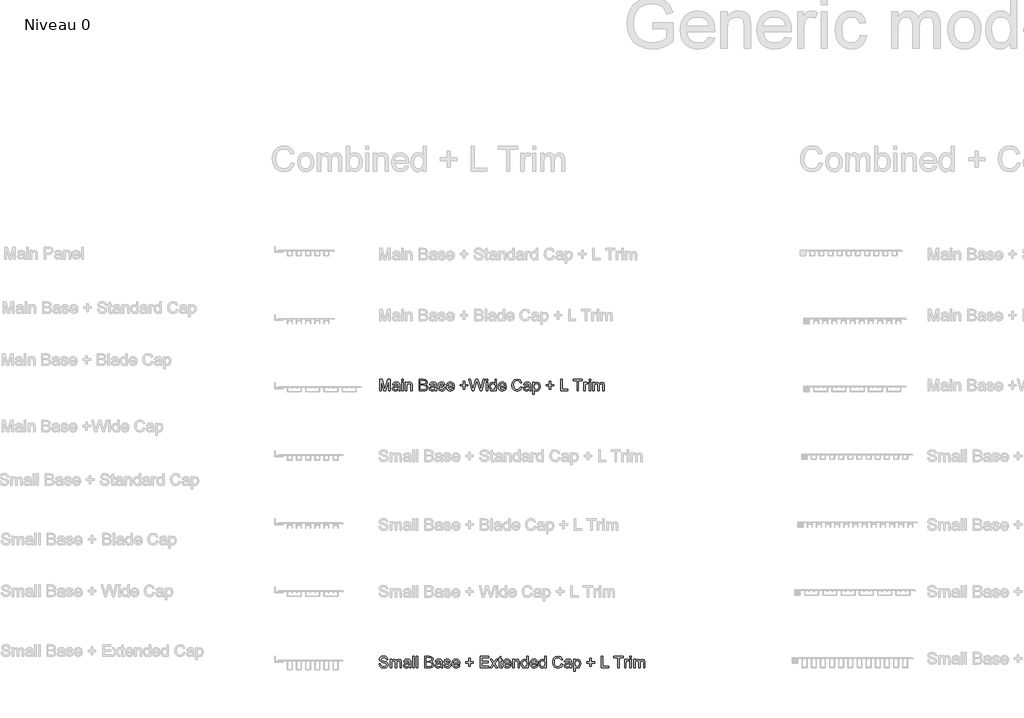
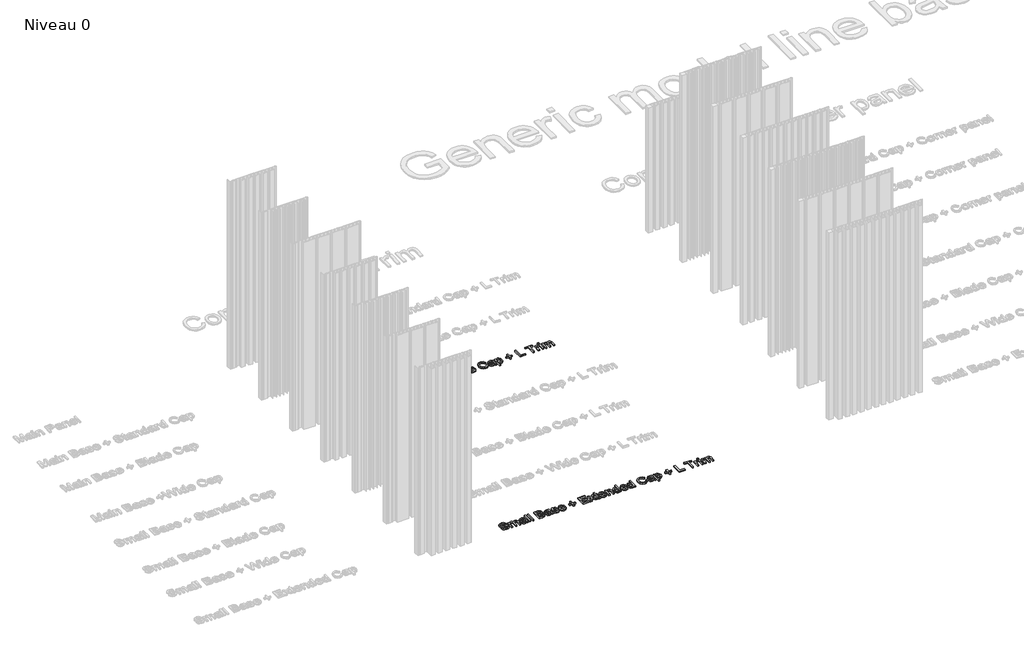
# One storey, part 10 of 25: 2 proxies.
"""IFC4 building model written with IfcOpenShell, lengths in millimetres."""

from ifc_helpers import new_model, si_unit, origin, origin_with_axes, place, context, project, spatial, polyline, outline, extrude, element, save

model = new_model("IFC4")

# Units and contexts
model_context = context("Model", 3, world=origin())
ifc_project = project(units=[si_unit("LENGTHUNIT", "METRE", prefix="MILLI")], contexts=[model_context])

# Site, building, storey
site = spatial("IfcSite", under=ifc_project)
building = spatial("IfcBuilding", under=site)
storey = spatial("IfcBuildingStorey", under=building, Name="Niveau 0", Elevation=0.0)

# Proxies
placement = place(None, origin())
element("IfcBuildingElementProxy", 1, Name="70mm Arial", ObjectType="70mm Arial", at=placement, inside=storey, context=model_context, shape_type="SweptSolid", body=[
    extrude(outline(polyline([(586.1765083, 3725.5948416), (586.1765083, 3795.9142587), (601.3013634, 3795.9142587), (615.688002, 3746.3507438), (618.5893646, 3735.9985444), (621.7310769, 3747.2091351), (635.8773659, 3795.9142587), (651.0022209, 3795.9142587), (651.0022209, 3725.5948416), (642.2122938, 3725.5948416), (642.2122938, 3787.1243316), (624.5466004, 3725.5948416), (612.6321289, 3725.5948416), (594.9664354, 3787.1243316), (594.9664354, 3725.5948416), (586.1765083, 3725.5948416)])), origin_with_axes(), (0.0, 0.0, 1.0), 10.0),
    extrude(outline(polyline([(698.2480793, 3732.187287), (689.7242535, 3726.2300512), (680.3077007, 3724.4961007), (667.5434217, 3728.6678825), (663.0883708, 3739.3291028), (664.7708178, 3746.2820725), (669.1915331, 3751.3294134), (675.3461988, 3754.2136083), (682.951546, 3755.5355309), (698.1965758, 3758.5570684), (698.2480793, 3760.5142006), (695.8274158, 3767.003639), (686.110426, 3769.5444773), (677.2174919, 3767.8534464), (672.9770388, 3761.8532911), (664.1871117, 3762.9520319), (667.9897852, 3771.5359452), (675.6466358, 3776.5661183), (687.2435026, 3778.3344044), (697.8961389, 3776.7721322), (703.913462, 3772.8492839), (706.6088108, 3766.8834642), (707.0380065, 3759.192278), (707.0380065, 3748.2563725), (707.4843699, 3732.9855909), (709.2354882, 3725.5948416), (700.4455611, 3725.5948416), (698.2480793, 3732.187287)]), holes=[polyline([(698.2480793, 3749.7671412), (684.0674547, 3747.0717925), (676.5050271, 3745.6468629), (673.0800458, 3743.3292063), (671.8782979, 3739.9471445), (674.4963914, 3735.1916566), (682.1789938, 3733.2860279), (691.0719279, 3735.3890866), (696.8059819, 3740.4793471), (698.1965758, 3747.2778064), (698.2480793, 3749.7671412)])]), origin_with_axes(), (0.0, 0.0, 1.0), 10.0),
    extrude(outline(polyline([(719.1241563, 3725.5948416), (719.1241563, 3777.2356635), (727.9140834, 3777.2356635), (727.9140834, 3725.5948416), (719.1241563, 3725.5948416)])), origin_with_axes(), (0.0, 0.0, 1.0), 10.0),
    extrude(outline(polyline([(719.1241563, 3787.1243316), (719.1241563, 3795.9142587), (727.9140834, 3795.9142587), (727.9140834, 3787.1243316), (719.1241563, 3787.1243316)])), origin_with_axes(), (0.0, 0.0, 1.0), 10.0),
    extrude(outline(polyline([(741.0989741, 3725.5948416), (741.0989741, 3777.2356635), (749.8889013, 3777.2356635), (749.8889013, 3770.0251764), (756.6101053, 3776.2570974), (765.7863085, 3778.3344044), (774.0869526, 3776.6605414), (779.7523353, 3772.2655778), (782.3875967, 3765.8018911), (782.851128, 3757.303817), (782.851128, 3725.5948416), (774.0612009, 3725.5948416), (774.0612009, 3756.119237), (773.0482991, 3763.8962624), (769.4688073, 3768.0079568), (763.4343163, 3769.5444773), (753.8975887, 3766.0937442), (749.8889013, 3752.9946926), (749.8889013, 3725.5948416), (741.0989741, 3725.5948416)])), origin_with_axes(), (0.0, 0.0, 1.0), 10.0),
    extrude(outline(polyline([(823.504541, 3725.5948416), (823.504541, 3795.9142587), (850.3378538, 3795.9142587), (863.4798249, 3793.8455356), (871.2396825, 3787.4848559), (874.0466221, 3778.4889149), (871.6860459, 3770.2741099), (864.5528141, 3764.0507728), (873.2139825, 3757.4926631), (876.2441039, 3746.5567577), (874.1753808, 3737.1058692), (869.0507846, 3730.3760813), (861.4025179, 3726.8051734), (850.1318398, 3725.5948416), (823.504541, 3725.5948416)]), holes=[polyline([(832.2944682, 3767.3469955), (848.3463859, 3767.3469955), (857.7200191, 3768.1023799), (863.3596501, 3771.355683), (865.2566949, 3777.0811531), (863.4884088, 3782.8152071), (858.4239, 3786.2058529), (847.1274702, 3787.1243316), (832.2944682, 3787.1243316), (832.2944682, 3767.3469955)]), polyline([(832.2944682, 3734.3847687), (850.3206859, 3734.3847687), (856.84446, 3734.7281253), (862.3639162, 3736.6423379), (866.0206632, 3740.5480184), (867.4541767, 3746.4709186), (865.7717297, 3753.3037135), (860.3209448, 3757.3810723), (849.4622946, 3758.5570684), (832.2944682, 3758.5570684), (832.2944682, 3734.3847687)])]), origin_with_axes(), (0.0, 0.0, 1.0), 10.0),
    extrude(outline(polyline([(920.1937396, 3732.187287), (911.6699137, 3726.2300512), (902.2533609, 3724.4961007), (889.489082, 3728.6678825), (885.034031, 3739.3291028), (886.716478, 3746.2820725), (891.1371933, 3751.3294134), (897.2918591, 3754.2136083), (904.8972062, 3755.5355309), (920.1422361, 3758.5570684), (920.1937396, 3760.5142006), (917.773076, 3767.003639), (908.0560863, 3769.5444773), (899.1631522, 3767.8534464), (894.922699, 3761.8532911), (886.1327719, 3762.9520319), (889.9354454, 3771.5359452), (897.592296, 3776.5661183), (909.1891628, 3778.3344044), (919.8417991, 3776.7721322), (925.8591223, 3772.8492839), (928.554471, 3766.8834642), (928.9836667, 3759.192278), (928.9836667, 3748.2563725), (929.4300302, 3732.9855909), (931.1811485, 3725.5948416), (922.3912213, 3725.5948416), (920.1937396, 3732.187287)]), holes=[polyline([(920.1937396, 3749.7671412), (906.0131149, 3747.0717925), (898.4506874, 3745.6468629), (895.025706, 3743.3292063), (893.8239581, 3739.9471445), (896.4420517, 3735.1916566), (904.124654, 3733.2860279), (913.0175881, 3735.3890866), (918.7516421, 3740.4793471), (920.1422361, 3747.2778064), (920.1937396, 3749.7671412)])]), origin_with_axes(), (0.0, 0.0, 1.0), 10.0),
    extrude(outline(polyline([(937.7735938, 3740.9772141), (946.563521, 3742.075955), (950.6322958, 3735.5521809), (959.9544256, 3733.2860279), (968.916031, 3735.3633349), (971.8345615, 3740.2389976), (968.8988632, 3744.1875976), (959.8514186, 3746.6941003), (946.6150244, 3750.9946408), (940.8380508, 3756.0162301), (938.8723347, 3763.1065424), (940.4517748, 3769.6560682), (944.7608992, 3774.6604896), (950.3490267, 3777.2614153), (957.9114542, 3778.3344044), (968.6070101, 3776.6090379), (975.4054694, 3771.9393891), (978.4270068, 3764.0507728), (969.6370797, 3762.9520319), (966.3322731, 3767.8019429), (958.5981673, 3769.5444773), (950.1859323, 3767.8791981), (947.6622619, 3763.9992694), (948.7094993, 3761.4412632), (951.9885541, 3759.5012988), (959.5595656, 3757.6300058), (972.4611872, 3753.4925596), (978.4527586, 3748.805743), (980.6244886, 3741.1660602), (978.0750664, 3732.7538252), (970.7186528, 3726.6506629), (959.8342508, 3724.4961007), (944.5033818, 3728.6507147), (937.7735938, 3740.9772141)])), origin_with_axes(), (0.0, 0.0, 1.0), 10.0),
    extrude(outline(polyline([(1026.6685991, 3740.9772141), (1035.286848, 3739.8784732), (1027.2265535, 3728.5305399), (1012.2132893, 3724.4961007), (1001.8997175, 3726.2364891), (993.9638898, 3731.4576543), (988.9036729, 3739.8205318), (987.216934, 3750.9860569), (988.9208408, 3762.5271282), (994.0325611, 3771.158253), (1001.8610899, 3776.5403666), (1011.7154223, 3778.3344044), (1021.2628798, 3776.5446585), (1028.8918327, 3771.1754208), (1033.8941081, 3762.5614639), (1035.5615332, 3751.0375604), (1035.5100298, 3748.6684003), (996.0068611, 3748.6684003), (1001.062786, 3737.2517958), (1012.3849675, 3733.2860279), (1021.0032164, 3735.1229853), (1026.6685991, 3740.9772141)]), holes=[polyline([(996.0068611, 3757.4583275), (1026.7716061, 3757.4583275), (1023.2522017, 3765.424199), (1011.6810867, 3769.5444773), (1000.8567721, 3766.2568385), (996.0068611, 3757.4583275)])]), origin_with_axes(), (0.0, 0.0, 1.0), 10.0),
    extrude(outline(polyline([(1089.399837, 3736.5822505), (1089.399837, 3755.2608457), (1070.7212418, 3755.2608457), (1070.7212418, 3764.0507728), (1089.399837, 3764.0507728), (1089.399837, 3782.729368), (1098.1897641, 3782.729368), (1098.1897641, 3764.0507728), (1116.8683593, 3764.0507728), (1116.8683593, 3755.2608457), (1098.1897641, 3755.2608457), (1098.1897641, 3736.5822505), (1089.399837, 3736.5822505)])), origin_with_axes(), (0.0, 0.0, 1.0), 10.0),
    extrude(outline(polyline([(1142.6372668, 3725.5948416), (1123.4608046, 3795.9142587), (1132.525417, 3795.9142587), (1143.6501685, 3749.6984699), (1147.0837338, 3735.4320062), (1150.7576487, 3748.0503586), (1164.6979237, 3795.9142587), (1177.7626397, 3795.9142587), (1187.8916573, 3761.2180815), (1195.4283331, 3735.4320062), (1198.7588914, 3749.2864421), (1209.9866499, 3795.9142587), (1219.0512622, 3795.9142587), (1199.8576323, 3725.5948416), (1190.4668312, 3725.5948416), (1173.6080257, 3779.8451732), (1171.2560334, 3787.4161846), (1168.6121882, 3778.3000688), (1153.2469835, 3725.5948416), (1142.6372668, 3725.5948416)])), origin_with_axes(), (0.0, 0.0, 1.0), 10.0),
    extrude(outline(polyline([(1226.7424485, 3725.5948416), (1226.7424485, 3777.2356635), (1235.5323756, 3777.2356635), (1235.5323756, 3725.5948416), (1226.7424485, 3725.5948416)])), origin_with_axes(), (0.0, 0.0, 1.0), 10.0),
    extrude(outline(polyline([(1226.7424485, 3787.1243316), (1226.7424485, 3795.9142587), (1235.5323756, 3795.9142587), (1235.5323756, 3787.1243316), (1226.7424485, 3787.1243316)])), origin_with_axes(), (0.0, 0.0, 1.0), 10.0),
    extrude(outline(polyline([(1280.5807522, 3725.5948416), (1280.5807522, 3733.8869018), (1274.765151, 3726.843801), (1266.7263163, 3724.4961007), (1255.8419143, 3727.8953304), (1248.1507281, 3737.3805545), (1245.4210437, 3751.3637491), (1247.9361302, 3765.3555277), (1255.472806, 3774.9866783), (1266.6919806, 3778.3344044), (1274.7951947, 3775.9394927), (1280.5807522, 3769.7161556), (1280.5807522, 3795.9142587), (1289.3706794, 3795.9142587), (1289.3706794, 3725.5948416), (1280.5807522, 3725.5948416)]), holes=[polyline([(1254.2109708, 3751.3980848), (1258.1767387, 3737.7925823), (1267.5332041, 3733.2860279), (1276.7780787, 3737.5865684), (1280.5807522, 3750.7285395), (1276.7094074, 3764.9950033), (1267.1726798, 3769.5444773), (1257.9192213, 3765.1752655), (1254.2109708, 3751.3980848)])]), origin_with_axes(), (0.0, 0.0, 1.0), 10.0),
    extrude(outline(polyline([(1338.7110125, 3740.9772141), (1347.3292614, 3739.8784732), (1339.2689669, 3728.5305399), (1324.2557027, 3724.4961007), (1313.9421309, 3726.2364891), (1306.0063032, 3731.4576543), (1300.9460863, 3739.8205318), (1299.2593474, 3750.9860569), (1300.9632542, 3762.5271282), (1306.0749745, 3771.158253), (1313.9035033, 3776.5403666), (1323.7578357, 3778.3344044), (1333.3052932, 3776.5446585), (1340.9342461, 3771.1754208), (1345.9365215, 3762.5614639), (1347.6039466, 3751.0375604), (1347.5524432, 3748.6684003), (1308.0492745, 3748.6684003), (1313.1051994, 3737.2517958), (1324.4273809, 3733.2860279), (1333.0456298, 3735.1229853), (1338.7110125, 3740.9772141)]), holes=[polyline([(1308.0492745, 3757.4583275), (1338.8140195, 3757.4583275), (1335.2946151, 3765.424199), (1323.7235001, 3769.5444773), (1312.8991855, 3766.2568385), (1308.0492745, 3757.4583275)])]), origin_with_axes(), (0.0, 0.0, 1.0), 10.0),
    extrude(outline(polyline([(1434.4044771, 3750.5911969), (1443.1944043, 3748.3250438), (1439.1385053, 3738.0822894), (1432.7735336, 3730.599263), (1424.4128021, 3726.0218913), (1414.3696237, 3724.4961007), (1396.0773046, 3729.114246), (1385.3474131, 3742.4879828), (1381.6649143, 3761.2867528), (1385.8281122, 3780.3945436), (1397.6653285, 3792.7811304), (1414.5584698, 3797.0129996), (1432.1640758, 3791.536463), (1442.0956634, 3776.1197548), (1433.3057362, 3774.02528), (1426.0952491, 3784.8324267), (1414.2151132, 3788.2230725), (1400.4636843, 3784.4633185), (1392.6952428, 3774.3686365), (1390.4548414, 3761.3039206), (1393.1072706, 3746.1618977), (1401.3649951, 3736.4878275), (1413.4940645, 3733.2860279), (1426.9450565, 3737.6466558), (1434.4044771, 3750.5911969)])), origin_with_axes(), (0.0, 0.0, 1.0), 10.0),
    extrude(outline(polyline([(1487.14404, 3732.187287), (1478.6202141, 3726.2300512), (1469.2036613, 3724.4961007), (1456.4393824, 3728.6678825), (1451.9843314, 3739.3291028), (1453.6667784, 3746.2820725), (1458.0874937, 3751.3294134), (1464.2421595, 3754.2136083), (1471.8475066, 3755.5355309), (1487.0925365, 3758.5570684), (1487.14404, 3760.5142006), (1484.7233764, 3767.003639), (1475.0063867, 3769.5444773), (1466.1134526, 3767.8534464), (1461.8729994, 3761.8532911), (1453.0830723, 3762.9520319), (1456.8857459, 3771.5359452), (1464.5425964, 3776.5661183), (1476.1394632, 3778.3344044), (1486.7920995, 3776.7721322), (1492.8094227, 3772.8492839), (1495.5047714, 3766.8834642), (1495.9339671, 3759.192278), (1495.9339671, 3748.2563725), (1496.3803306, 3732.9855909), (1498.1314489, 3725.5948416), (1489.3415217, 3725.5948416), (1487.14404, 3732.187287)]), holes=[polyline([(1487.14404, 3749.7671412), (1472.9634153, 3747.0717925), (1465.4009878, 3745.6468629), (1461.9760064, 3743.3292063), (1460.7742585, 3739.9471445), (1463.3923521, 3735.1916566), (1471.0749544, 3733.2860279), (1479.9678885, 3735.3890866), (1485.7019425, 3740.4793471), (1487.0925365, 3747.2778064), (1487.14404, 3749.7671412)])]), origin_with_axes(), (0.0, 0.0, 1.0), 10.0),
    extrude(outline(polyline([(1508.0201169, 3705.8175056), (1508.0201169, 3777.2356635), (1516.810044, 3777.2356635), (1516.810044, 3768.6174147), (1522.8874546, 3775.905157), (1531.0936756, 3778.3344044), (1542.235595, 3774.9351748), (1549.5147534, 3765.3555277), (1551.9697526, 3751.8101126), (1549.1971486, 3737.5694006), (1541.145438, 3727.8695786), (1530.0292704, 3724.4961007), (1522.3810037, 3726.7536699), (1516.810044, 3732.4619722), (1516.810044, 3705.8175056), (1508.0201169, 3705.8175056)]), holes=[polyline([(1516.810044, 3751.0032247), (1520.6127176, 3737.6123201), (1529.8404243, 3733.2860279), (1539.2569771, 3737.7668306), (1543.1798255, 3751.6556021), (1539.3514002, 3765.0808424), (1530.2009487, 3769.5444773), (1520.870235, 3764.7975733), (1516.810044, 3751.0032247)])]), origin_with_axes(), (0.0, 0.0, 1.0), 10.0),
    extrude(outline(polyline([(1606.9067972, 3736.5822505), (1606.9067972, 3755.2608457), (1588.228202, 3755.2608457), (1588.228202, 3764.0507728), (1606.9067972, 3764.0507728), (1606.9067972, 3782.729368), (1615.6967244, 3782.729368), (1615.6967244, 3764.0507728), (1634.3753195, 3764.0507728), (1634.3753195, 3755.2608457), (1615.6967244, 3755.2608457), (1615.6967244, 3736.5822505), (1606.9067972, 3736.5822505)])), origin_with_axes(), (0.0, 0.0, 1.0), 10.0),
    extrude(outline(polyline([(1675.0287325, 3725.5948416), (1675.0287325, 3795.9142587), (1683.8186597, 3795.9142587), (1683.8186597, 3734.3847687), (1718.9783682, 3734.3847687), (1718.9783682, 3725.5948416), (1675.0287325, 3725.5948416)])), origin_with_axes(), (0.0, 0.0, 1.0), 10.0),
    extrude(outline(polyline([(1773.9154128, 3725.5948416), (1773.9154128, 3787.1243316), (1750.8418541, 3787.1243316), (1750.8418541, 3795.9142587), (1805.7788987, 3795.9142587), (1805.7788987, 3787.1243316), (1782.70534, 3787.1243316), (1782.70534, 3725.5948416), (1773.9154128, 3725.5948416)])), origin_with_axes(), (0.0, 0.0, 1.0), 10.0),
    extrude(outline(polyline([(1814.5688259, 3725.5948416), (1814.5688259, 3777.2356635), (1822.2600121, 3777.2356635), (1822.2600121, 3769.5959808), (1827.7193809, 3776.6347896), (1833.2130854, 3778.3344044), (1842.0373482, 3775.6218879), (1839.1016498, 3767.7418555), (1832.9212323, 3769.5444773), (1827.9511466, 3767.8105268), (1824.7836826, 3763.0035354), (1823.358753, 3752.7371752), (1823.358753, 3725.5948416), (1814.5688259, 3725.5948416)])), origin_with_axes(), (0.0, 0.0, 1.0), 10.0),
    extrude(outline(polyline([(1847.5310526, 3725.5948416), (1847.5310526, 3777.2356635), (1856.3209798, 3777.2356635), (1856.3209798, 3725.5948416), (1847.5310526, 3725.5948416)])), origin_with_axes(), (0.0, 0.0, 1.0), 10.0),
    extrude(outline(polyline([(1847.5310526, 3787.1243316), (1847.5310526, 3795.9142587), (1856.3209798, 3795.9142587), (1856.3209798, 3787.1243316), (1847.5310526, 3787.1243316)])), origin_with_axes(), (0.0, 0.0, 1.0), 10.0),
    extrude(outline(polyline([(1869.5058705, 3725.5948416), (1869.5058705, 3777.2356635), (1878.2957976, 3777.2356635), (1878.2957976, 3768.7375895), (1884.3388725, 3775.6991431), (1892.9399536, 3778.3344044), (1901.7470485, 3775.6476396), (1906.5883756, 3768.1195477), (1913.4469222, 3775.7806903), (1922.1080907, 3778.3344044), (1933.6019505, 3774.0853674), (1937.6278058, 3760.9948997), (1937.6278058, 3725.5948416), (1928.8378786, 3725.5948416), (1928.8378786, 3757.2179779), (1928.0224069, 3764.5572237), (1925.0695407, 3768.1710512), (1920.0479515, 3769.5444773), (1911.4039509, 3766.0250729), (1907.9618017, 3754.7458109), (1907.9618017, 3725.5948416), (1899.1718746, 3725.5948416), (1899.1718746, 3758.196544), (1897.1374871, 3766.7117859), (1890.4677866, 3769.5444773), (1883.9611803, 3767.6560164), (1879.6348881, 3762.1279763), (1878.2957976, 3751.6384343), (1878.2957976, 3725.5948416), (1869.5058705, 3725.5948416)])), origin_with_axes(), (0.0, 0.0, 1.0), 10.0),
])
element("IfcBuildingElementProxy", 2, Name="70mm Arial", ObjectType="70mm Arial", at=placement, inside=storey, context=model_context, shape_type="SweptSolid", body=[
    extrude(outline(polyline([(582.8802856, 2083.1928391), (591.6702128, 2083.1928391), (594.5029041, 2074.394328), (601.4215382, 2068.8319523), (611.9625836, 2066.7117257), (621.1473708, 2068.3169175), (627.0788548, 2072.7290489), (629.0274031, 2078.6261972), (627.5681379, 2084.1113178), (621.5937343, 2088.1028374), (608.7951196, 2091.4591475), (595.0179389, 2095.7940237), (587.5413505, 2102.3349656), (585.0777674, 2111.0733892), (588.1250566, 2121.0221446), (597.0265746, 2128.0437857), (610.0569549, 2130.4386974), (623.9628943, 2127.9321948), (633.2335206, 2120.5671972), (636.7185893, 2109.5626205), (627.9286622, 2109.5626205), (622.9499925, 2118.5928972), (610.4003114, 2121.6487703), (597.8162946, 2118.6272329), (593.8676945, 2111.3309066), (596.6660503, 2105.2363282), (611.0183532, 2100.3263299), (626.5724039, 2095.9141985), (635.0790619, 2088.7895505), (637.8173302, 2078.849379), (634.6670341, 2068.3340853), (625.6024217, 2060.6600669), (612.3059401, 2057.9217986), (596.6059629, 2060.8746647), (586.6743753, 2069.7675988), (582.8802856, 2083.1928391)])), origin_with_axes(), (0.0, 0.0, 1.0), 10.0),
    extrude(outline(polyline([(649.9034801, 2059.0205394), (649.9034801, 2110.6613614), (658.6934072, 2110.6613614), (658.6934072, 2102.1632873), (664.7364821, 2109.1248409), (673.3375631, 2111.7601023), (682.1446581, 2109.0733374), (686.9859852, 2101.5452455), (693.8445318, 2109.2063881), (702.5057003, 2111.7601023), (713.9995601, 2107.5110652), (718.0254154, 2094.4205976), (718.0254154, 2059.0205394), (709.2354882, 2059.0205394), (709.2354882, 2090.6436758), (708.4200165, 2097.9829216), (705.4671503, 2101.596749), (700.4455611, 2102.9701751), (691.8015605, 2099.4507707), (688.3594113, 2088.1715087), (688.3594113, 2059.0205394), (679.5694841, 2059.0205394), (679.5694841, 2091.6222419), (677.5350967, 2100.1374838), (670.8653961, 2102.9701751), (664.3587899, 2101.0817142), (660.0324977, 2095.5536741), (658.6934072, 2085.0641322), (658.6934072, 2059.0205394), (649.9034801, 2059.0205394)])), origin_with_axes(), (0.0, 0.0, 1.0), 10.0),
    extrude(outline(polyline([(764.1725329, 2065.6129848), (755.648707, 2059.655749), (746.2321542, 2057.9217986), (733.4678753, 2062.0935804), (729.0128243, 2072.7548006), (730.6952713, 2079.7077703), (735.1159866, 2084.7551113), (741.2706524, 2087.6393061), (748.8759995, 2088.9612288), (764.1210294, 2091.9827662), (764.1725329, 2093.9398984), (761.7518693, 2100.4293368), (752.0348796, 2102.9701751), (743.1419455, 2101.2791442), (738.9014923, 2095.2789889), (730.1115652, 2096.3777298), (733.9142387, 2104.961643), (741.5710893, 2109.9918162), (753.1679561, 2111.7601023), (763.8205924, 2110.1978301), (769.8379156, 2106.2749817), (772.5332643, 2100.309162), (772.96246, 2092.6179758), (772.96246, 2081.6820703), (773.4088235, 2066.4112887), (775.1599418, 2059.0205394), (766.3700146, 2059.0205394), (764.1725329, 2065.6129848)]), holes=[polyline([(764.1725329, 2083.1928391), (749.9919082, 2080.4974903), (742.4294807, 2079.0725607), (739.0044993, 2076.7549042), (737.8027514, 2073.3728424), (740.420845, 2068.6173544), (748.1034473, 2066.7117257), (756.9963814, 2068.8147844), (762.7304354, 2073.905045), (764.1210294, 2080.7035042), (764.1725329, 2083.1928391)])]), origin_with_axes(), (0.0, 0.0, 1.0), 10.0),
    extrude(outline(polyline([(785.0486098, 2059.0205394), (785.0486098, 2129.3399566), (793.8385369, 2129.3399566), (793.8385369, 2059.0205394), (785.0486098, 2059.0205394)])), origin_with_axes(), (0.0, 0.0, 1.0), 10.0),
    extrude(outline(polyline([(807.0234276, 2059.0205394), (807.0234276, 2129.3399566), (815.8133548, 2129.3399566), (815.8133548, 2059.0205394), (807.0234276, 2059.0205394)])), origin_with_axes(), (0.0, 0.0, 1.0), 10.0),
    extrude(outline(polyline([(857.5655087, 2059.0205394), (857.5655087, 2129.3399566), (884.3988214, 2129.3399566), (897.5407926, 2127.2712335), (905.3006501, 2120.9105538), (908.1075897, 2111.9146127), (905.7470136, 2103.6998078), (898.6137817, 2097.4764707), (907.2749502, 2090.918361), (910.3050715, 2079.9824555), (908.2363484, 2070.5315671), (903.1117522, 2063.8017791), (895.4634856, 2060.2308712), (884.1928075, 2059.0205394), (857.5655087, 2059.0205394)]), holes=[polyline([(866.3554358, 2067.8104666), (884.3816536, 2067.8104666), (890.9054276, 2068.1538231), (896.4248838, 2070.0680358), (900.0816309, 2073.9737163), (901.5151444, 2079.8966164), (899.8326974, 2086.7294113), (894.3819125, 2090.8067701), (883.5232623, 2091.9827662), (866.3554358, 2091.9827662), (866.3554358, 2067.8104666)]), polyline([(866.3554358, 2100.7726934), (882.4073536, 2100.7726934), (891.7809868, 2101.5280777), (897.4206178, 2104.7813808), (899.3176626, 2110.5068509), (897.5493765, 2116.240905), (892.4848677, 2119.6315507), (881.1884379, 2120.5500294), (866.3554358, 2120.5500294), (866.3554358, 2100.7726934)])]), origin_with_axes(), (0.0, 0.0, 1.0), 10.0),
    extrude(outline(polyline([(954.2547072, 2065.6129848), (945.7308814, 2059.655749), (936.3143286, 2057.9217986), (923.5500496, 2062.0935804), (919.0949987, 2072.7548006), (920.7774457, 2079.7077703), (925.198161, 2084.7551113), (931.3528267, 2087.6393061), (938.9581739, 2088.9612288), (954.2032037, 2091.9827662), (954.2547072, 2093.9398984), (951.8340437, 2100.4293368), (942.1170539, 2102.9701751), (933.2241198, 2101.2791442), (928.9836667, 2095.2789889), (920.1937396, 2096.3777298), (923.9964131, 2104.961643), (931.6532637, 2109.9918162), (943.2501305, 2111.7601023), (953.9027668, 2110.1978301), (959.9200899, 2106.2749817), (962.6154387, 2100.309162), (963.0446343, 2092.6179758), (963.0446343, 2081.6820703), (963.4909978, 2066.4112887), (965.2421161, 2059.0205394), (956.452189, 2059.0205394), (954.2547072, 2065.6129848)]), holes=[polyline([(954.2547072, 2083.1928391), (940.0740826, 2080.4974903), (932.511655, 2079.0725607), (929.0866736, 2076.7549042), (927.8849258, 2073.3728424), (930.5030193, 2068.6173544), (938.1856217, 2066.7117257), (947.0785558, 2068.8147844), (952.8126098, 2073.905045), (954.2032037, 2080.7035042), (954.2547072, 2083.1928391)])]), origin_with_axes(), (0.0, 0.0, 1.0), 10.0),
    extrude(outline(polyline([(971.8345615, 2074.4029119), (980.6244886, 2075.5016528), (984.6932635, 2068.9778788), (994.0153933, 2066.7117257), (1002.9769987, 2068.7890327), (1005.8955291, 2073.6646954), (1002.9598308, 2077.6132955), (993.9123863, 2080.1197981), (980.6759921, 2084.4203387), (974.8990185, 2089.4419279), (972.9333024, 2096.5322402), (974.5127424, 2103.081766), (978.8218668, 2108.0861874), (984.4099944, 2110.6871131), (991.9724219, 2111.7601023), (1002.6679778, 2110.0347357), (1009.466437, 2105.3650869), (1012.4879745, 2097.4764707), (1003.6980474, 2096.3777298), (1000.3932408, 2101.2276408), (992.659135, 2102.9701751), (984.2469, 2101.304896), (981.7232295, 2097.4249672), (982.7704669, 2094.8669611), (986.0495218, 2092.9269967), (993.6205332, 2091.0557036), (1006.5221548, 2086.9182574), (1012.5137262, 2082.2314408), (1014.6854563, 2074.591758), (1012.1360341, 2066.1795231), (1004.7796204, 2060.0763608), (993.8952185, 2057.9217986), (978.5643495, 2062.0764126), (971.8345615, 2074.4029119)])), origin_with_axes(), (0.0, 0.0, 1.0), 10.0),
    extrude(outline(polyline([(1060.7295668, 2074.4029119), (1069.3478157, 2073.304171), (1061.2875212, 2061.9562378), (1046.2742569, 2057.9217986), (1035.9606852, 2059.662187), (1028.0248574, 2064.8833522), (1022.9646406, 2073.2462296), (1021.2779016, 2084.4117548), (1022.9818084, 2095.9528261), (1028.0935287, 2104.5839508), (1035.9220576, 2109.9660644), (1045.77639, 2111.7601023), (1055.3238475, 2109.9703564), (1062.9528003, 2104.6011186), (1067.9550758, 2095.9871617), (1069.6225009, 2084.4632582), (1069.5709974, 2082.0940982), (1030.0678288, 2082.0940982), (1035.1237537, 2070.6774936), (1046.4459352, 2066.7117257), (1055.0641841, 2068.5486831), (1060.7295668, 2074.4029119)]), holes=[polyline([(1030.0678288, 2090.8840253), (1060.8325738, 2090.8840253), (1057.3131693, 2098.8498968), (1045.7420543, 2102.9701751), (1034.9177397, 2099.6825364), (1030.0678288, 2090.8840253)])]), origin_with_axes(), (0.0, 0.0, 1.0), 10.0),
    extrude(outline(polyline([(1123.4608046, 2070.0079484), (1123.4608046, 2088.6865435), (1104.7822095, 2088.6865435), (1104.7822095, 2097.4764707), (1123.4608046, 2097.4764707), (1123.4608046, 2116.1550658), (1132.2507318, 2116.1550658), (1132.2507318, 2097.4764707), (1150.9293269, 2097.4764707), (1150.9293269, 2088.6865435), (1132.2507318, 2088.6865435), (1132.2507318, 2070.0079484), (1123.4608046, 2070.0079484)])), origin_with_axes(), (0.0, 0.0, 1.0), 10.0),
    extrude(outline(polyline([(1191.5827399, 2059.0205394), (1191.5827399, 2129.3399566), (1242.124821, 2129.3399566), (1242.124821, 2120.5500294), (1200.3726671, 2120.5500294), (1200.3726671, 2099.6739525), (1239.9273392, 2099.6739525), (1239.9273392, 2090.8840253), (1200.3726671, 2090.8840253), (1200.3726671, 2067.8104666), (1243.2235619, 2067.8104666), (1243.2235619, 2059.0205394), (1191.5827399, 2059.0205394)])), origin_with_axes(), (0.0, 0.0, 1.0), 10.0),
    extrude(outline(polyline([(1249.8160072, 2059.0205394), (1268.5976094, 2084.978293), (1250.9147481, 2110.6613614), (1261.4901292, 2110.6613614), (1270.022539, 2098.3005263), (1274.0054747, 2092.4634654), (1277.4562078, 2097.2361211), (1287.1731976, 2110.6613614), (1297.7485787, 2110.6613614), (1279.1729904, 2084.978293), (1297.0618656, 2059.0205394), (1286.4864845, 2059.0205394), (1275.7222573, 2074.6260937), (1273.7479573, 2077.4759529), (1260.3913883, 2059.0205394), (1249.8160072, 2059.0205394)])), origin_with_axes(), (0.0, 0.0, 1.0), 10.0),
    extrude(outline(polyline([(1323.431647, 2066.3512013), (1324.5303879, 2058.763022), (1317.9551104, 2057.9217986), (1310.5901128, 2059.3810638), (1306.916198, 2063.2094891), (1305.8517927, 2073.1839963), (1305.8517927, 2101.8714342), (1299.2593474, 2101.8714342), (1299.2593474, 2110.6613614), (1305.8517927, 2110.6613614), (1305.8517927, 2123.2110425), (1314.6417199, 2128.3785583), (1314.6417199, 2110.6613614), (1323.431647, 2110.6613614), (1323.431647, 2101.8714342), (1314.6417199, 2101.8714342), (1314.6417199, 2073.4415137), (1315.1052512, 2068.9092075), (1316.607436, 2067.3040157), (1319.6032217, 2066.7117257), (1323.431647, 2066.3512013)])), origin_with_axes(), (0.0, 0.0, 1.0), 10.0),
    extrude(outline(polyline([(1368.3770166, 2074.4029119), (1376.9952655, 2073.304171), (1368.934971, 2061.9562378), (1353.9217068, 2057.9217986), (1343.608135, 2059.662187), (1335.6723073, 2064.8833522), (1330.6120904, 2073.2462296), (1328.9253515, 2084.4117548), (1330.6292582, 2095.9528261), (1335.7409786, 2104.5839508), (1343.5695074, 2109.9660644), (1353.4238398, 2111.7601023), (1362.9712973, 2109.9703564), (1370.6002502, 2104.6011186), (1375.6025256, 2095.9871617), (1377.2699507, 2084.4632582), (1377.2184473, 2082.0940982), (1337.7152786, 2082.0940982), (1342.7712035, 2070.6774936), (1354.093385, 2066.7117257), (1362.7116339, 2068.5486831), (1368.3770166, 2074.4029119)]), holes=[polyline([(1337.7152786, 2090.8840253), (1368.4800236, 2090.8840253), (1364.9606192, 2098.8498968), (1353.3895042, 2102.9701751), (1342.5651896, 2099.6825364), (1337.7152786, 2090.8840253)])]), origin_with_axes(), (0.0, 0.0, 1.0), 10.0),
    extrude(outline(polyline([(1386.0598779, 2059.0205394), (1386.0598779, 2110.6613614), (1394.849805, 2110.6613614), (1394.849805, 2103.4508743), (1401.5710091, 2109.6827953), (1410.7472123, 2111.7601023), (1419.0478564, 2110.0862392), (1424.7132391, 2105.6912756), (1427.3485005, 2099.227589), (1427.8120318, 2090.7295149), (1427.8120318, 2059.0205394), (1419.0221046, 2059.0205394), (1419.0221046, 2089.5449349), (1418.0092029, 2097.3219602), (1414.4297111, 2101.4336547), (1408.3952201, 2102.9701751), (1398.8584925, 2099.519442), (1394.849805, 2086.4203904), (1394.849805, 2059.0205394), (1386.0598779, 2059.0205394)])), origin_with_axes(), (0.0, 0.0, 1.0), 10.0),
    extrude(outline(polyline([(1471.7616675, 2059.0205394), (1471.7616675, 2067.3125996), (1465.9460663, 2060.2694988), (1457.9072315, 2057.9217986), (1447.0228296, 2061.3210282), (1439.3316433, 2070.8062523), (1436.6019589, 2084.7894469), (1439.1170455, 2098.7812255), (1446.6537213, 2108.4123761), (1457.8728959, 2111.7601023), (1465.97611, 2109.3651905), (1471.7616675, 2103.1418534), (1471.7616675, 2129.3399566), (1480.5515946, 2129.3399566), (1480.5515946, 2059.0205394), (1471.7616675, 2059.0205394)]), holes=[polyline([(1445.3918861, 2084.8237826), (1449.357654, 2071.2182801), (1458.7141194, 2066.7117257), (1467.9589939, 2071.0122662), (1471.7616675, 2084.1542374), (1467.8903226, 2098.4207011), (1458.353595, 2102.9701751), (1449.1001366, 2098.6009633), (1445.3918861, 2084.8237826)])]), origin_with_axes(), (0.0, 0.0, 1.0), 10.0),
    extrude(outline(polyline([(1529.8919278, 2074.4029119), (1538.5101767, 2073.304171), (1530.4498822, 2061.9562378), (1515.4366179, 2057.9217986), (1505.1230462, 2059.662187), (1497.1872184, 2064.8833522), (1492.1270016, 2073.2462296), (1490.4402626, 2084.4117548), (1492.1441694, 2095.9528261), (1497.2558897, 2104.5839508), (1505.0844186, 2109.9660644), (1514.938751, 2111.7601023), (1524.4862084, 2109.9703564), (1532.1151613, 2104.6011186), (1537.1174368, 2095.9871617), (1538.7848619, 2084.4632582), (1538.7333584, 2082.0940982), (1499.2301898, 2082.0940982), (1504.2861147, 2070.6774936), (1515.6082962, 2066.7117257), (1524.2265451, 2068.5486831), (1529.8919278, 2074.4029119)]), holes=[polyline([(1499.2301898, 2090.8840253), (1529.9949348, 2090.8840253), (1526.4755303, 2098.8498968), (1514.9044153, 2102.9701751), (1504.0801007, 2099.6825364), (1499.2301898, 2090.8840253)])]), origin_with_axes(), (0.0, 0.0, 1.0), 10.0),
    extrude(outline(polyline([(1579.4382749, 2059.0205394), (1579.4382749, 2067.3125996), (1573.6226737, 2060.2694988), (1565.583839, 2057.9217986), (1554.699437, 2061.3210282), (1547.0082508, 2070.8062523), (1544.2785664, 2084.7894469), (1546.7936529, 2098.7812255), (1554.3303287, 2108.4123761), (1565.5495033, 2111.7601023), (1573.6527174, 2109.3651905), (1579.4382749, 2103.1418534), (1579.4382749, 2129.3399566), (1588.228202, 2129.3399566), (1588.228202, 2059.0205394), (1579.4382749, 2059.0205394)]), holes=[polyline([(1553.0684935, 2084.8237826), (1557.0342614, 2071.2182801), (1566.3907268, 2066.7117257), (1575.6356014, 2071.0122662), (1579.4382749, 2084.1542374), (1575.56693, 2098.4207011), (1566.0302025, 2102.9701751), (1556.776744, 2098.6009633), (1553.0684935, 2084.8237826)])]), origin_with_axes(), (0.0, 0.0, 1.0), 10.0),
    extrude(outline(polyline([(1679.4236961, 2084.0168947), (1688.2136232, 2081.7507417), (1684.1577242, 2071.5079872), (1677.7927526, 2064.0249609), (1669.4320211, 2059.4475891), (1659.3888426, 2057.9217986), (1641.0965236, 2062.5399439), (1630.366632, 2075.9136807), (1626.6841333, 2094.7124506), (1630.8473312, 2113.8202414), (1642.6845475, 2126.2068282), (1659.5776887, 2130.4386974), (1677.1832948, 2124.9621608), (1687.1148824, 2109.5454527), (1678.3249552, 2107.4509778), (1671.1144681, 2118.2581246), (1659.2343322, 2121.6487703), (1645.4829032, 2117.8890163), (1637.7144618, 2107.7943344), (1635.4740604, 2094.7296184), (1638.1264896, 2079.5875955), (1646.3842141, 2069.9135253), (1658.5132835, 2066.7117257), (1671.9642755, 2071.0723536), (1679.4236961, 2084.0168947)])), origin_with_axes(), (0.0, 0.0, 1.0), 10.0),
    extrude(outline(polyline([(1732.1632589, 2065.6129848), (1723.6394331, 2059.655749), (1714.2228803, 2057.9217986), (1701.4586013, 2062.0935804), (1697.0035504, 2072.7548006), (1698.6859974, 2079.7077703), (1703.1067127, 2084.7551113), (1709.2613785, 2087.6393061), (1716.8667256, 2088.9612288), (1732.1117555, 2091.9827662), (1732.1632589, 2093.9398984), (1729.7425954, 2100.4293368), (1720.0256056, 2102.9701751), (1711.1326715, 2101.2791442), (1706.8922184, 2095.2789889), (1698.1022913, 2096.3777298), (1701.9049648, 2104.961643), (1709.5618154, 2109.9918162), (1721.1586822, 2111.7601023), (1731.8113185, 2110.1978301), (1737.8286417, 2106.2749817), (1740.5239904, 2100.309162), (1740.9531861, 2092.6179758), (1740.9531861, 2081.6820703), (1741.3995496, 2066.4112887), (1743.1506679, 2059.0205394), (1734.3607407, 2059.0205394), (1732.1632589, 2065.6129848)]), holes=[polyline([(1732.1632589, 2083.1928391), (1717.9826343, 2080.4974903), (1710.4202067, 2079.0725607), (1706.9952254, 2076.7549042), (1705.7934775, 2073.3728424), (1708.4115711, 2068.6173544), (1716.0941734, 2066.7117257), (1724.9871075, 2068.8147844), (1730.7211615, 2073.905045), (1732.1117555, 2080.7035042), (1732.1632589, 2083.1928391)])]), origin_with_axes(), (0.0, 0.0, 1.0), 10.0),
    extrude(outline(polyline([(1753.0393359, 2039.2432034), (1753.0393359, 2110.6613614), (1761.829263, 2110.6613614), (1761.829263, 2102.0431125), (1767.9066736, 2109.3308548), (1776.1128946, 2111.7601023), (1787.254814, 2108.3608726), (1794.5339724, 2098.7812255), (1796.9889716, 2085.2358104), (1794.2163676, 2070.9950984), (1786.164657, 2061.2952764), (1775.0484894, 2057.9217986), (1767.4002227, 2060.1793677), (1761.829263, 2065.88767), (1761.829263, 2039.2432034), (1753.0393359, 2039.2432034)]), holes=[polyline([(1761.829263, 2084.4289226), (1765.6319366, 2071.038018), (1774.8596433, 2066.7117257), (1784.2761961, 2071.1925284), (1788.1990444, 2085.0813), (1784.3706191, 2098.5065403), (1775.2201676, 2102.9701751), (1765.889454, 2098.2232711), (1761.829263, 2084.4289226)])]), origin_with_axes(), (0.0, 0.0, 1.0), 10.0),
    extrude(outline(polyline([(1851.9260162, 2070.0079484), (1851.9260162, 2088.6865435), (1833.247421, 2088.6865435), (1833.247421, 2097.4764707), (1851.9260162, 2097.4764707), (1851.9260162, 2116.1550658), (1860.7159433, 2116.1550658), (1860.7159433, 2097.4764707), (1879.3945385, 2097.4764707), (1879.3945385, 2088.6865435), (1860.7159433, 2088.6865435), (1860.7159433, 2070.0079484), (1851.9260162, 2070.0079484)])), origin_with_axes(), (0.0, 0.0, 1.0), 10.0),
    extrude(outline(polyline([(1920.0479515, 2059.0205394), (1920.0479515, 2129.3399566), (1928.8378786, 2129.3399566), (1928.8378786, 2067.8104666), (1963.9975872, 2067.8104666), (1963.9975872, 2059.0205394), (1920.0479515, 2059.0205394)])), origin_with_axes(), (0.0, 0.0, 1.0), 10.0),
    extrude(outline(polyline([(2018.9346318, 2059.0205394), (2018.9346318, 2120.5500294), (1995.8610731, 2120.5500294), (1995.8610731, 2129.3399566), (2050.7981177, 2129.3399566), (2050.7981177, 2120.5500294), (2027.724559, 2120.5500294), (2027.724559, 2059.0205394), (2018.9346318, 2059.0205394)])), origin_with_axes(), (0.0, 0.0, 1.0), 10.0),
    extrude(outline(polyline([(2059.5880448, 2059.0205394), (2059.5880448, 2110.6613614), (2067.2792311, 2110.6613614), (2067.2792311, 2103.0216786), (2072.7385999, 2110.0604875), (2078.2323043, 2111.7601023), (2087.0565671, 2109.0475857), (2084.1208688, 2101.1675534), (2077.9404513, 2102.9701751), (2072.9703655, 2101.2362247), (2069.8029016, 2096.4292333), (2068.377972, 2086.162873), (2068.377972, 2059.0205394), (2059.5880448, 2059.0205394)])), origin_with_axes(), (0.0, 0.0, 1.0), 10.0),
    extrude(outline(polyline([(2092.5502716, 2059.0205394), (2092.5502716, 2110.6613614), (2101.3401987, 2110.6613614), (2101.3401987, 2059.0205394), (2092.5502716, 2059.0205394)])), origin_with_axes(), (0.0, 0.0, 1.0), 10.0),
    extrude(outline(polyline([(2092.5502716, 2120.5500294), (2092.5502716, 2129.3399566), (2101.3401987, 2129.3399566), (2101.3401987, 2120.5500294), (2092.5502716, 2120.5500294)])), origin_with_axes(), (0.0, 0.0, 1.0), 10.0),
    extrude(outline(polyline([(2114.5250894, 2059.0205394), (2114.5250894, 2110.6613614), (2123.3150166, 2110.6613614), (2123.3150166, 2102.1632873), (2129.3580915, 2109.1248409), (2137.9591725, 2111.7601023), (2146.7662675, 2109.0733374), (2151.6075946, 2101.5452455), (2158.4661412, 2109.2063881), (2167.1273097, 2111.7601023), (2178.6211695, 2107.5110652), (2182.6470248, 2094.4205976), (2182.6470248, 2059.0205394), (2173.8570976, 2059.0205394), (2173.8570976, 2090.6436758), (2173.0416259, 2097.9829216), (2170.0887597, 2101.596749), (2165.0671705, 2102.9701751), (2156.4231699, 2099.4507707), (2152.9810207, 2088.1715087), (2152.9810207, 2059.0205394), (2144.1910935, 2059.0205394), (2144.1910935, 2091.6222419), (2142.1567061, 2100.1374838), (2135.4870055, 2102.9701751), (2128.9803993, 2101.0817142), (2124.654107, 2095.5536741), (2123.3150166, 2085.0641322), (2123.3150166, 2059.0205394), (2114.5250894, 2059.0205394)])), origin_with_axes(), (0.0, 0.0, 1.0), 10.0),
])

save(model, "model.ifc")
